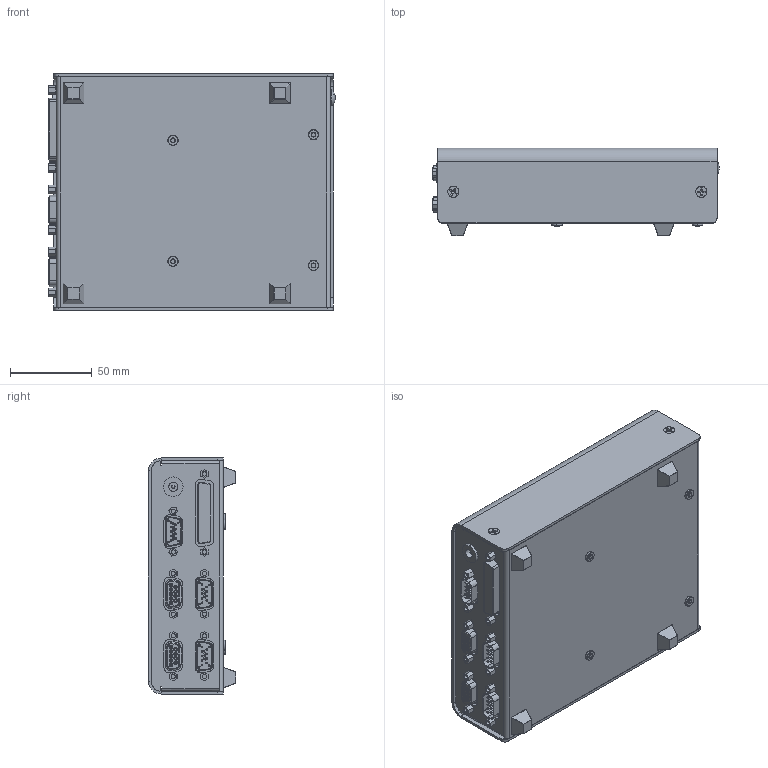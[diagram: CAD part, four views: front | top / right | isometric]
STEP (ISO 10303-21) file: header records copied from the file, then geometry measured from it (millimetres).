
FILE_DESCRIPTION (( 'STEP AP203' ), '1' );
FILE_NAME ('NSC-A2L.STEP', '2014-01-23T20:52:55', ( 'Ryan' ), ( '' ), 'SwSTEP 2.0', 'SolidWorks 2013', '' );
FILE_SCHEMA (( 'CONFIG_CONTROL_DESIGN' ));
Products named in the file (1): NSC-A2L
Bounding box: 175.56 x 53.31 x 144.55 mm (x, y, z)
Volume: 144502.3 mm3; surface area: 176939.6 mm2
Topology: 45 solids, 45 shells, 3692 faces, 9016 edges, 5594 vertices
Faces by surface type: plane 1904, cylinder 1212, cone 448, bspline 61, sphere 51, torus 16
Entity records: 113913 total; most frequent: CARTESIAN_POINT 26924, DIRECTION 18040, ORIENTED_EDGE 17944, EDGE_CURVE 8972, AXIS2_PLACEMENT_3D 6046, LINE 5948, VECTOR 5948, VERTEX_POINT 5592
